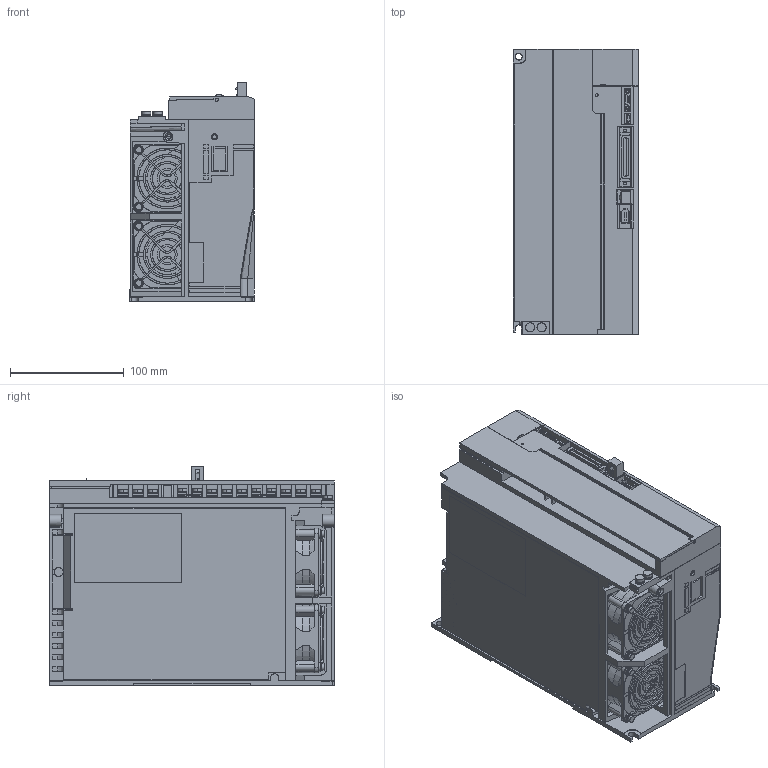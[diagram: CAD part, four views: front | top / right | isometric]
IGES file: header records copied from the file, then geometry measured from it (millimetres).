
Start section: SolidWorks IGES file using analytic representation for surfaces
Global section: file name: C:\YASKAWA\sgdv_8r4d0_a.IGS; native system: SolidWorks 2006 by SolidWorks Corporation; preprocessor: SolidWorks 2006 by SolidWorks Corporation; author: yamanouchi; date: 080617.173353; units: millimetre
Bounding box: 110.5 x 250 x 193 mm (x, y, z)
Surface area: 307088.8 mm2 (no closed solid volume)
Topology: 0 solids, 0 shells, 2410 faces, 24771 edges, 24771 vertices
Faces by surface type: bspline 1889, revolution 521
